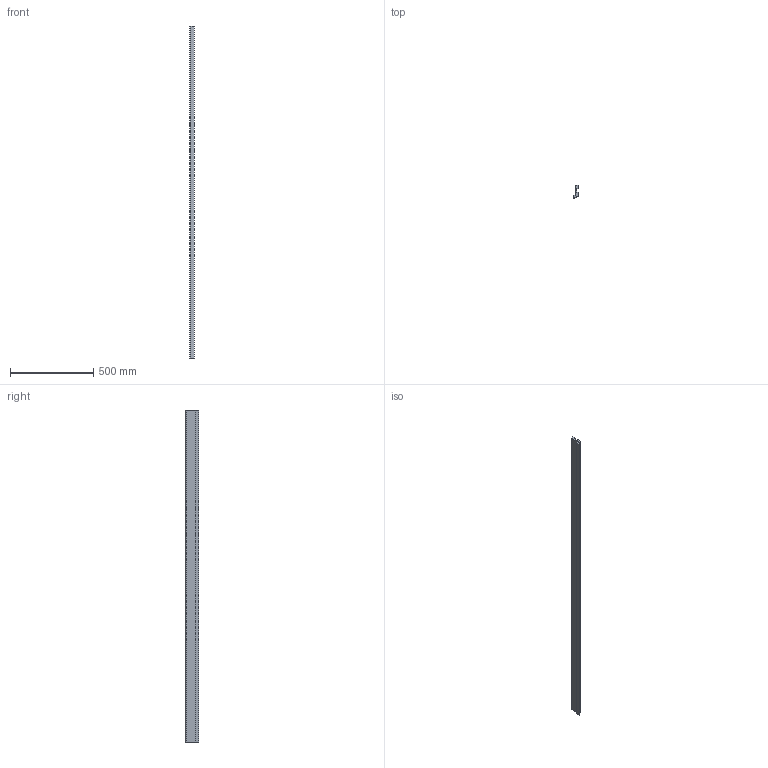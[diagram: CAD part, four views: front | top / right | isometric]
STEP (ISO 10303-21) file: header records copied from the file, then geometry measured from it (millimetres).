
FILE_DESCRIPTION(/* description */ (''),/* implementation_level */ '2;1');
FILE_NAME(/* name */ 'PARTOUT - P02',/* time_stamp */ '2018-11-18T18:15:31+01:00',/* author */ (''),/* organization */ (''),/* preprocessor_version */ 'ST-DEVELOPER v15',/* originating_system */ '',/* authorisation */ '');
FILE_SCHEMA (('AUTOMOTIVE_DESIGN'));
Length unit declared in the file: millimetre
Products named in the file (1): Document
Bounding box: 26.74 x 79.8 x 2000 mm (x, y, z)
Volume: 2003389.4 mm3; surface area: 432688.9 mm2
Topology: 1 solids, 1 shells, 26 faces, 72 edges, 48 vertices
Faces by surface type: bspline 24, plane 2
Entity records: 769 total; most frequent: CARTESIAN_POINT 396, ORIENTED_EDGE 144, EDGE_CURVE 72, VERTEX_POINT 48, ADVANCED_FACE 26, FACE_OUTER_BOUND 26, EDGE_LOOP 26, DIRECTION 6
